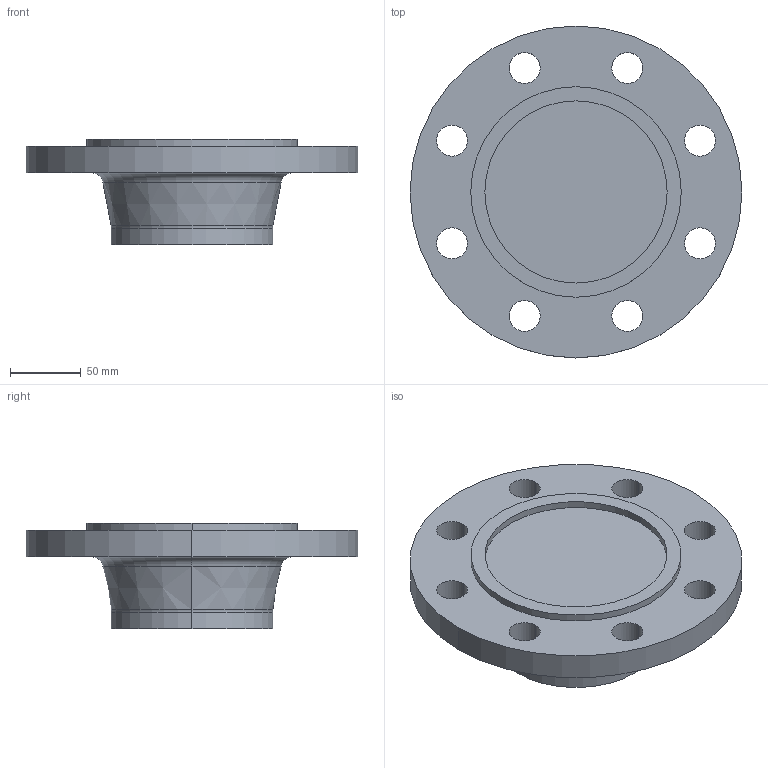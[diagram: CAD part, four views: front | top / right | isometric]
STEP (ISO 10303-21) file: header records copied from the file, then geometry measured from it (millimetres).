
FILE_DESCRIPTION (( 'STEP AP214' ), '1' );
FILE_NAME ('PN40 DN100 Type 21(ii) - Type C Face.STEP', '2019-01-02T00:13:44', ( '' ), ( '' ), 'SwSTEP 2.0', 'SolidWorks 2019', '' );
FILE_SCHEMA (( 'AUTOMOTIVE_DESIGN' ));
Length unit declared in the file: millimetre
Products named in the file (1): PN40 DN100 Type 21(ii) - Type C Face
Bounding box: 235 x 235 x 75 mm (x, y, z)
Volume: 1366728.9 mm3; surface area: 125382 mm2
Topology: 1 solids, 1 shells, 35 faces, 84 edges, 54 vertices
Faces by surface type: cylinder 24, plane 5, torus 4, cone 2
Entity records: 1114 total; most frequent: DIRECTION 214, CARTESIAN_POINT 174, ORIENTED_EDGE 168, AXIS2_PLACEMENT_3D 94, EDGE_CURVE 84, CIRCLE 58, EDGE_LOOP 54, VERTEX_POINT 54
